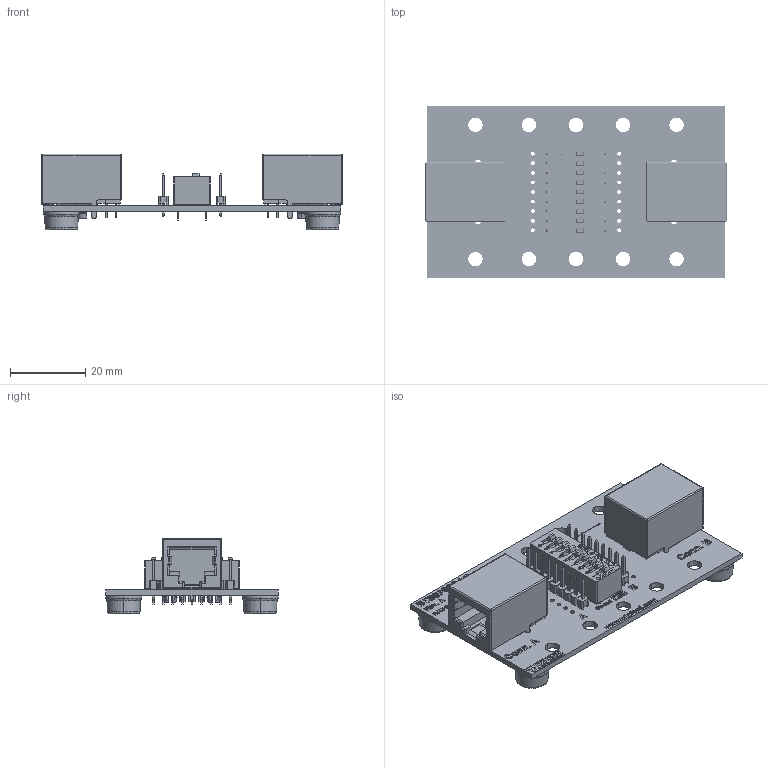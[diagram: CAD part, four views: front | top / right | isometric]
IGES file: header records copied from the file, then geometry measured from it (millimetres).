
Start section: SolidWorks IGES file using analytic representation for surfaces
Global section: file name: W:\end-user\products\bts\bts8p8csj-r\3dmodel\2022-01-04_rev_a\render\bts8p8csj-r-ft_rev_a.igs; native system: SolidWorks 2018; preprocessor: SolidWorks 2018; author: leviroy; date: 220104.085009; units: inch
Bounding box: 79.81 x 45.72 x 20.05 mm (x, y, z)
Surface area: 18354.1 mm2 (no closed solid volume)
Topology: 0 solids, 0 shells, 3882 faces, 32989 edges, 32981 vertices
Faces by surface type: bspline 3409, revolution 473
